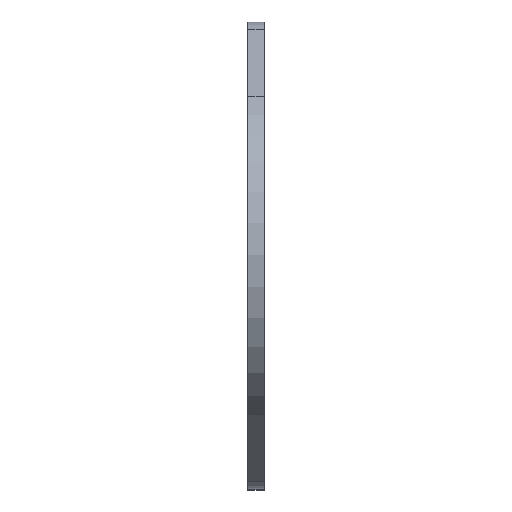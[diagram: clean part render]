
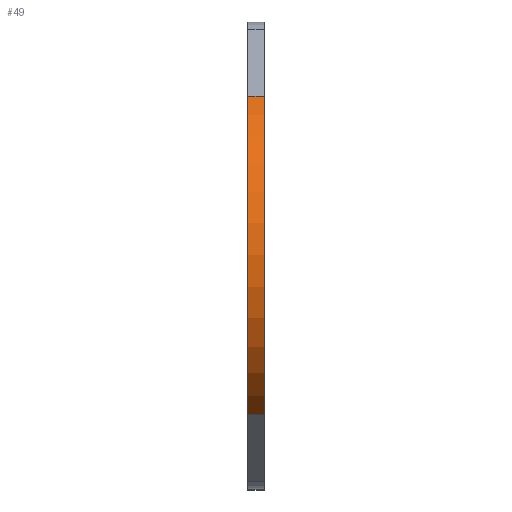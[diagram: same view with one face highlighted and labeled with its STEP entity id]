
A CAD part, top view. The second image highlights one B-rep face of the part: STEP entity #49.
In plain terms, the highlighted cylindrical face has radius 16.5 mm (diameter 33 mm), a partial arc.
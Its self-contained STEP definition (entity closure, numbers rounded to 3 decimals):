
#49 = ADVANCED_FACE( '', ( #116 ), #117, .T. );
#116 = FACE_OUTER_BOUND( '', #207, .T. );
#117 = CYLINDRICAL_SURFACE( '', #208, 16.5 );
#207 = EDGE_LOOP( '', ( #292, #293, #294, #295 ) );
#208 = AXIS2_PLACEMENT_3D( '', #296, #297, #298 );
#292 = ORIENTED_EDGE( '', *, *, #528, .F. );
#293 = ORIENTED_EDGE( '', *, *, #529, .F. );
#294 = ORIENTED_EDGE( '', *, *, #530, .T. );
#295 = ORIENTED_EDGE( '', *, *, #531, .T. );
#296 = CARTESIAN_POINT( '', ( -1.5, 0., 54. ) );
#297 = DIRECTION( '', ( -1., 0., 0. ) );
#298 = DIRECTION( '', ( 0., 0., -1. ) );
#528 = EDGE_CURVE( '', #621, #622, #623, .T. );
#529 = EDGE_CURVE( '', #624, #621, #625, .T. );
#530 = EDGE_CURVE( '', #624, #626, #627, .T. );
#531 = EDGE_CURVE( '', #626, #622, #628, .T. );
#621 = VERTEX_POINT( '', #760 );
#622 = VERTEX_POINT( '', #761 );
#623 = CIRCLE( '', #762, 16.5 );
#624 = VERTEX_POINT( '', #763 );
#625 = LINE( '', #764, #765 );
#626 = VERTEX_POINT( '', #766 );
#627 = CIRCLE( '', #767, 16.5 );
#628 = LINE( '', #768, #769 );
#760 = CARTESIAN_POINT( '', ( 0., 14.289, 62.25 ) );
#761 = CARTESIAN_POINT( '', ( 0., -14.289, 62.25 ) );
#762 = AXIS2_PLACEMENT_3D( '', #934, #935, #936 );
#763 = CARTESIAN_POINT( '', ( -1.5, 14.289, 62.25 ) );
#764 = CARTESIAN_POINT( '', ( -1.5, 14.289, 62.25 ) );
#765 = VECTOR( '', #937, 1000. );
#766 = CARTESIAN_POINT( '', ( -1.5, -14.289, 62.25 ) );
#767 = AXIS2_PLACEMENT_3D( '', #938, #939, #940 );
#768 = CARTESIAN_POINT( '', ( -1.5, -14.289, 62.25 ) );
#769 = VECTOR( '', #941, 1000. );
#934 = CARTESIAN_POINT( '', ( 0., 0., 54. ) );
#935 = DIRECTION( '', ( 1., 0., 0. ) );
#936 = DIRECTION( '', ( 0., 1., 0. ) );
#937 = DIRECTION( '', ( 1., 0., 0. ) );
#938 = CARTESIAN_POINT( '', ( -1.5, 0., 54. ) );
#939 = DIRECTION( '', ( 1., 0., 0. ) );
#940 = DIRECTION( '', ( 0., 1., 0. ) );
#941 = DIRECTION( '', ( 1., 0., 0. ) );
